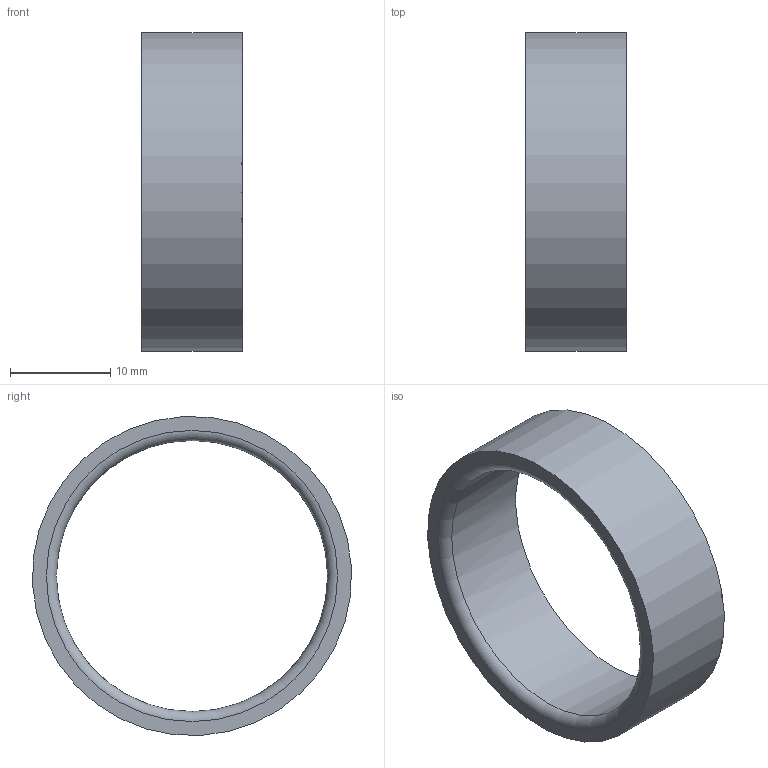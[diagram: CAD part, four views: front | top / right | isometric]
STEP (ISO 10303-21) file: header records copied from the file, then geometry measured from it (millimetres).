
FILE_DESCRIPTION((''),'2;1');
FILE_NAME('K:\Daten\20-50.stp','2014-05-16T14:40:07',('kamp'),(''),'Autodesk Inventor 2008','Autodesk Inventor 2008','');
FILE_SCHEMA(('AUTOMOTIVE_DESIGN { 1 0 10303 214 1 1 1 1 }'));
Length unit declared in the file: millimetre
Products named in the file (1): Bauteil3
Bounding box: 10 x 31.75 x 31.75 mm (x, y, z)
Volume: 2197.8 mm3; surface area: 2258.2 mm2
Topology: 1 solids, 1 shells, 61 faces, 168 edges, 113 vertices
Faces by surface type: plane 37, bspline 19, cylinder 4, torus 1
Full cylindrical faces by diameter (mm): 27 x1, 31.8 x1
Entity records: 2099 total; most frequent: CARTESIAN_POINT 563, ORIENTED_EDGE 328, DIRECTION 226, EDGE_CURVE 164, VECTOR 116, LINE 116, VERTEX_POINT 112, EDGE_LOOP 70
